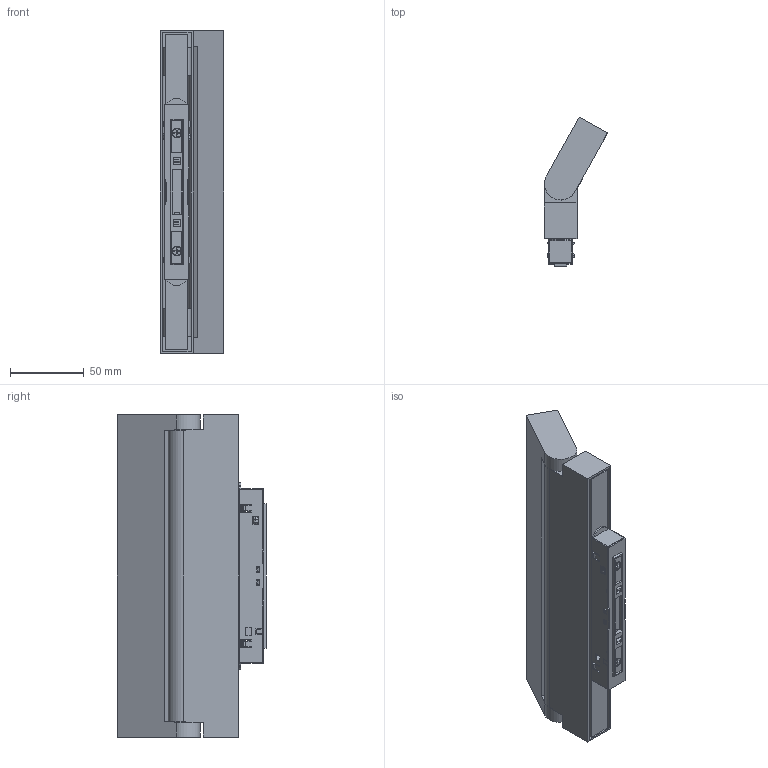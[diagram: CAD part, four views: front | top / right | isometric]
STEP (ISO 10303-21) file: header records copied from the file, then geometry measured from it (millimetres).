
FILE_DESCRIPTION((''),'2;1');
FILE_NAME('410093_ASM','2022-11-11T',('Administrator'),(''),'PRO/ENGINEER BY PARAMETRIC TECHNOLOGY CORPORATION, 2015070','PRO/ENGINEER BY PARAMETRIC TECHNOLOGY CORPORATION, 2015070','');
FILE_SCHEMA(('CONFIG_CONTROL_DESIGN','SHAPE_APPEARANCE_LAYERS_GROUPS'));
Length unit declared in the file: millimetre
Products named in the file (18): ZHIJIA_2_2; ZHIJIA_0__3; ZHIJIA_XIAGAI_3; PRT0017; PRT0018; PRT0019; 08-22-W1_37_ASM_ASM_ASM; PRT0020; PRT0021; PRT0022; PRT0023; DK-1_0406A_14_59_ASM_ASM_ASM; PRT0024; ASM0004_ASM; 20_CIXI_ASM_1_ASM; 216X19MM_PMMA_2; ZHEDIE_GESHAN_ASM_5_ASM; 410093_ASM
Assembly tree (18 placements, depth 6):
  410093_ASM
    ZHEDIE_GESHAN_ASM_5_ASM
      ZHIJIA_2_2
      ZHIJIA_0__3
      ZHIJIA_XIAGAI_3
      20_CIXI_ASM_1_ASM
        ASM0004_ASM
          PRT0017
          08-22-W1_37_ASM_ASM_ASM
            PRT0018
            PRT0019
          PRT0020
          PRT0021  x2
          PRT0022
          DK-1_0406A_14_59_ASM_ASM_ASM
            PRT0023
          PRT0024
      216X19MM_PMMA_2
Bounding box: 42.63 x 101.04 x 218 mm (x, y, z)
Volume: 165408.9 mm3; surface area: 130620.9 mm2
Topology: 12 solids, 14 shells, 963 faces, 2631 edges, 1716 vertices
Faces by surface type: plane 717, cylinder 148, bspline 44, cone 36, torus 18
Entity records: 32699 total; most frequent: CARTESIAN_POINT 8514, ORIENTED_EDGE 5152, DIRECTION 4542, EDGE_CURVE 2579, VECTOR 2064, LINE 2064, VERTEX_POINT 1690, AXIS2_PLACEMENT_3D 1239
